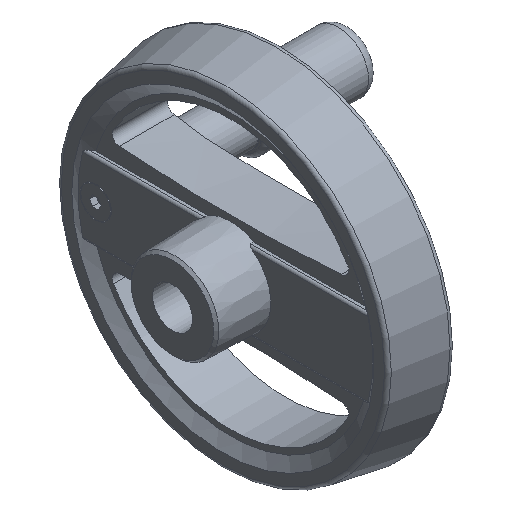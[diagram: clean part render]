
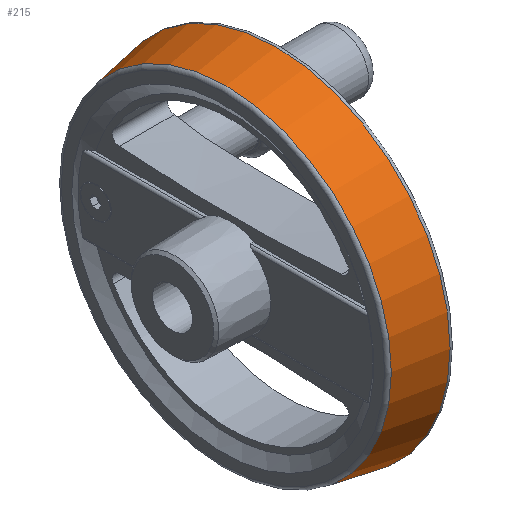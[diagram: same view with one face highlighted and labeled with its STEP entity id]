
A CAD part, isometric view. The second image highlights one B-rep face of the part: STEP entity #215.
In plain terms, the highlighted conical face has half-angle 10 degrees and reference radius 66.287 mm.
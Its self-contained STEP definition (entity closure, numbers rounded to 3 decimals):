
#215 = ADVANCED_FACE( '', ( #383, #384 ), #385, .T. );
#383 = FACE_OUTER_BOUND( '', #639, .T. );
#384 = FACE_BOUND( '', #640, .T. );
#385 = CONICAL_SURFACE( '', #641, 66.287, 0.175 );
#639 = EDGE_LOOP( '', ( #1148 ) );
#640 = EDGE_LOOP( '', ( #1149 ) );
#641 = AXIS2_PLACEMENT_3D( '', #1150, #1151, #1152 );
#1148 = ORIENTED_EDGE( '', *, *, #1673, .F. );
#1149 = ORIENTED_EDGE( '', *, *, #1674, .T. );
#1150 = CARTESIAN_POINT( '', ( 21.44, 0., 0. ) );
#1151 = DIRECTION( '', ( 1., 0., 0. ) );
#1152 = DIRECTION( '', ( 0., 1., 0. ) );
#1673 = EDGE_CURVE( '', #2009, #2009, #2010, .T. );
#1674 = EDGE_CURVE( '', #2011, #2011, #2012, .T. );
#2009 = VERTEX_POINT( '', #2915 );
#2010 = CIRCLE( '', #2916, 69.817 );
#2011 = VERTEX_POINT( '', #2917 );
#2012 = CIRCLE( '', #2918, 66.287 );
#2915 = CARTESIAN_POINT( '', ( 41.46, 69.817, 0. ) );
#2916 = AXIS2_PLACEMENT_3D( '', #3254, #3255, #3256 );
#2917 = CARTESIAN_POINT( '', ( 21.44, 66.287, 0. ) );
#2918 = AXIS2_PLACEMENT_3D( '', #3257, #3258, #3259 );
#3254 = CARTESIAN_POINT( '', ( 41.46, 0., 0. ) );
#3255 = DIRECTION( '', ( 1., 0., 0. ) );
#3256 = DIRECTION( '', ( 0., 1., 0. ) );
#3257 = CARTESIAN_POINT( '', ( 21.44, 0., 0. ) );
#3258 = DIRECTION( '', ( 1., 0., 0. ) );
#3259 = DIRECTION( '', ( 0., 1., 0. ) );
